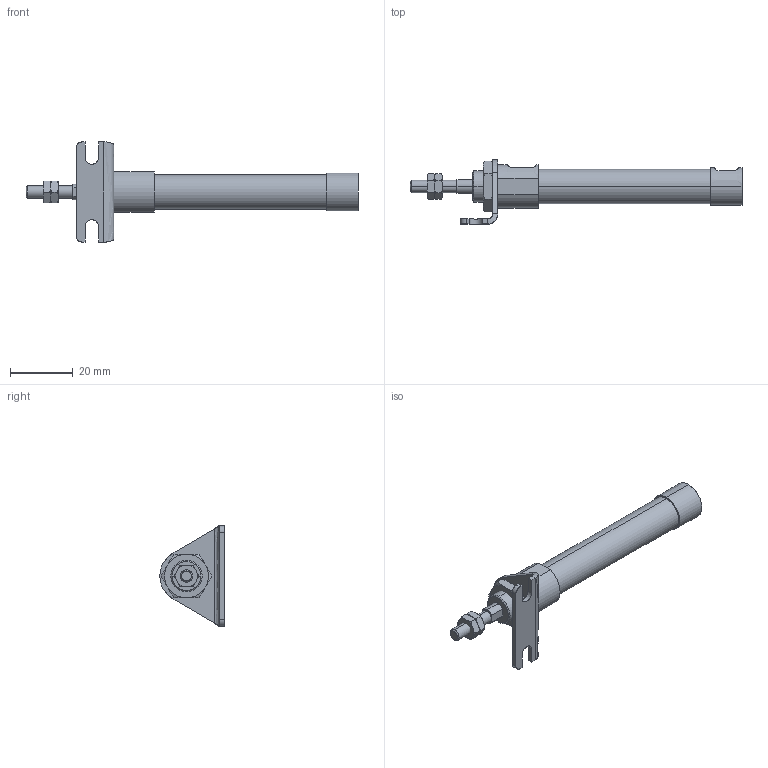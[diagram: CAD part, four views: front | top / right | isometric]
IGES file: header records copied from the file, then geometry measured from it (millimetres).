
Start section: SolidWorks IGES file using analytic representation for surfaces
Global section: file name: C:\Users\Toshiba\Desktop\ZGU2-10-30-L.IGS; native system: SolidWorks 2014; preprocessor: SolidWorks 2014; author: Toshiba; date: 160331.085208; units: millimetre
Bounding box: 106 x 20.5 x 32 mm (x, y, z)
Surface area: 6036.6 mm2 (no closed solid volume)
Topology: 0 solids, 0 shells, 134 faces, 1934 edges, 1930 vertices
Faces by surface type: bspline 94, revolution 40
